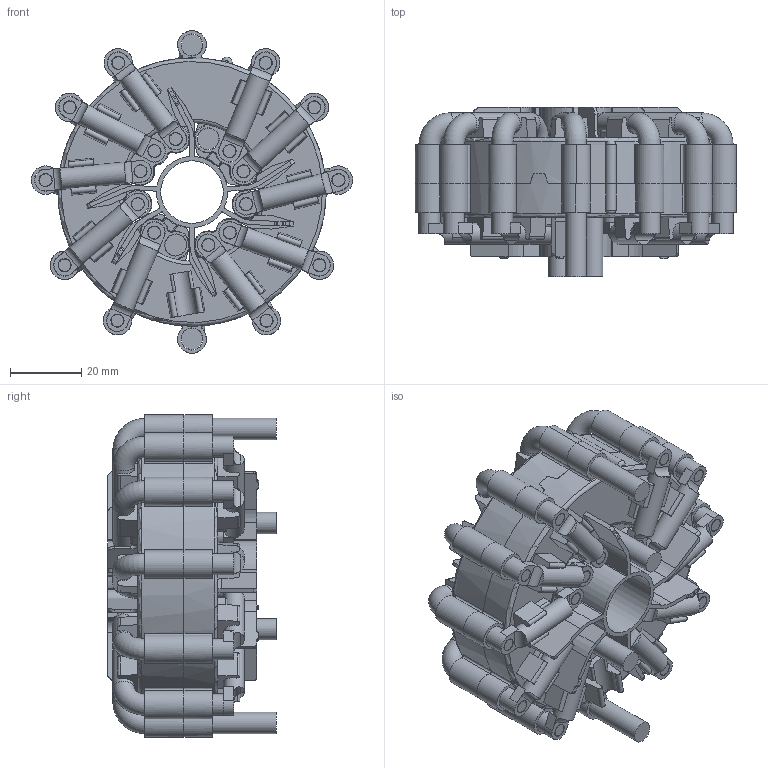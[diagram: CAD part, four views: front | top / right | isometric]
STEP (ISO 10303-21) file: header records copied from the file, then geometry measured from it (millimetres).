
FILE_DESCRIPTION(/* description */ (''),/* implementation_level */ '2;1');
FILE_NAME(/* name */ 'K30777_Baugruppe.stp',/* time_stamp */ '2026-02-11T09:47:22+01:00',/* author */ ('DE041100'),/* organization */ (''),/* preprocessor_version */ 'ST-DEVELOPER v20.1',/* originating_system */ 'Autodesk Inventor 2026',/* authorisation */ '');
FILE_SCHEMA (('AUTOMOTIVE_DESIGN { 1 0 10303 214 3 1 1 }'));
Length unit declared in the file: millimetre
Products named in the file (1): K30777_Multiversion_Baugruppe_Vereinfachen_7
Bounding box: 90.32 x 47.5 x 90.65 mm (x, y, z)
Volume: 132776 mm3; surface area: 72627.5 mm2
Topology: 1 solids, 1 shells, 1394 faces, 3790 edges, 2438 vertices
Faces by surface type: plane 676, cylinder 555, torus 84, cone 66, bspline 13
Full cylindrical faces by diameter (mm): 3.5 x20, 3.7 x20, 6 x46, 6.2 x44, 17.6 x1, 74.2 x2
Entity records: 47646 total; most frequent: CARTESIAN_POINT 9584, DIRECTION 8169, ORIENTED_EDGE 7580, EDGE_CURVE 3790, AXIS2_PLACEMENT_3D 3197, VERTEX_POINT 2438, CIRCLE 1802, LINE 1775
